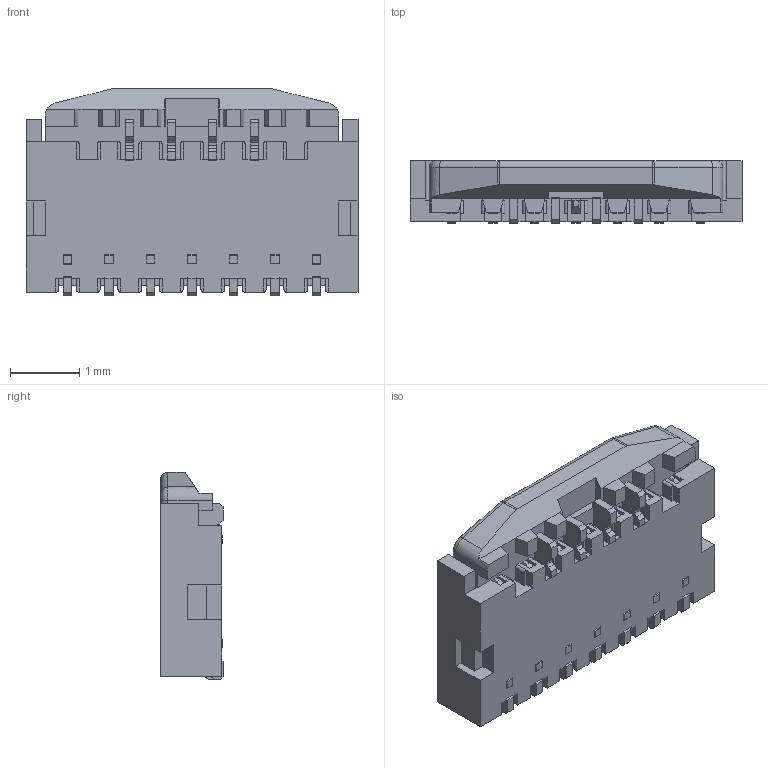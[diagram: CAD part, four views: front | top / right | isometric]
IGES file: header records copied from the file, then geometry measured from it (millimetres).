
Start section: SolidWorks IGES file using analytic representation for surfaces
Global section: file name: C:\Users\83197\OneDrive - I-PEX\デスクトップ\Exported\20599-009E-01C LK TYPE ACT CLOSE IGES R1 ALL.IGS; native system: SolidWorks 2023; preprocessor: SolidWorks 2023; author: 83197; date: 251117.133853; units: millimetre
Bounding box: 4.8 x 0.9 x 3 mm (x, y, z)
Surface area: 50.5 mm2 (no closed solid volume)
Topology: 0 solids, 0 shells, 565 faces, 3376 edges, 3374 vertices
Faces by surface type: bspline 487, revolution 78
